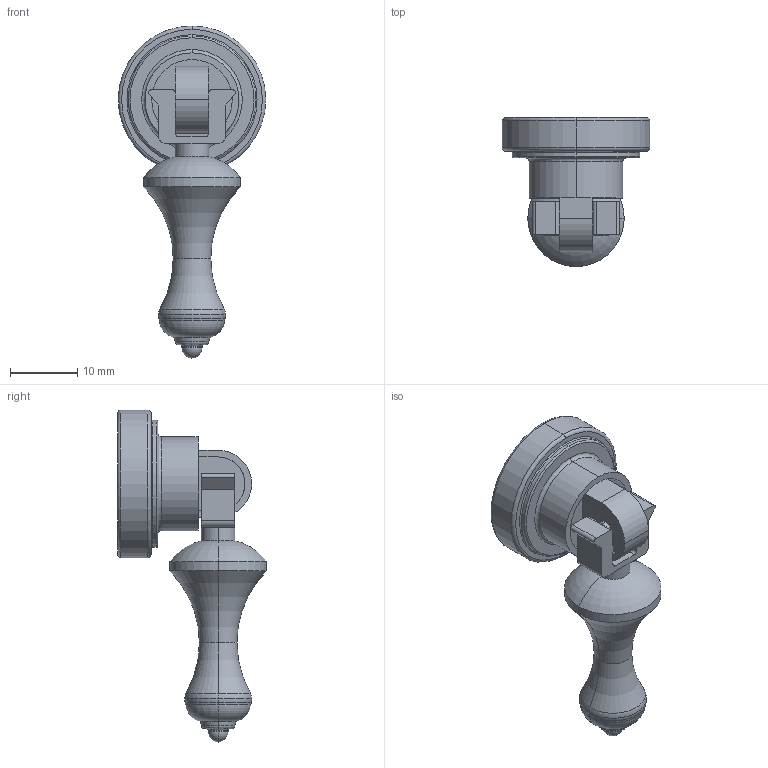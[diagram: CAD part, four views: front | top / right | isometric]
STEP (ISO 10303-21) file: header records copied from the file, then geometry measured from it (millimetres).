
FILE_DESCRIPTION( ( '' ), '1' );
FILE_NAME( 'C:/Documents and Settings/Nikhil/Desktop/Nik/Done/9113435.stp', '2013-10-23T10:23:23', ( '' ), ( '' ), ' ', ' ', ' ' );
FILE_SCHEMA( ( 'automotive_design' ) );
Length unit declared in the file: millimetre
Products named in the file (1): 1
Bounding box: 22 x 22.19 x 49.5 mm (x, y, z)
Volume: 5155 mm3; surface area: 3149.2 mm2
Topology: 1 solids, 1 shells, 99 faces, 238 edges, 141 vertices
Faces by surface type: plane 34, cylinder 33, torus 28, cone 2, sphere 2
Entity records: 5581 total; most frequent: DIRECTION 566, STYLED_ITEM 477, PRESENTATION_STYLE_ASSIGNMENT 477, CARTESIAN_POINT 477, COLOUR_RGB 477, ORIENTED_EDGE 472, EDGE_CURVE 236, CURVE_STYLE 236
